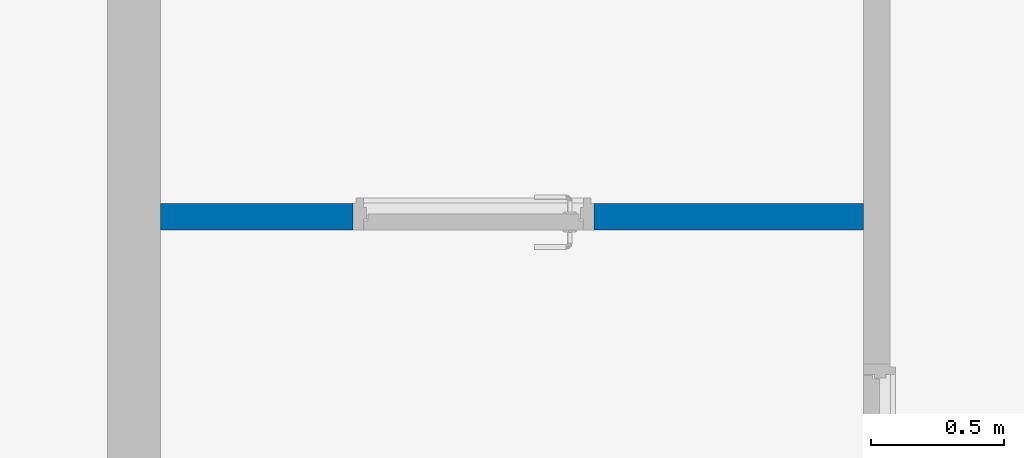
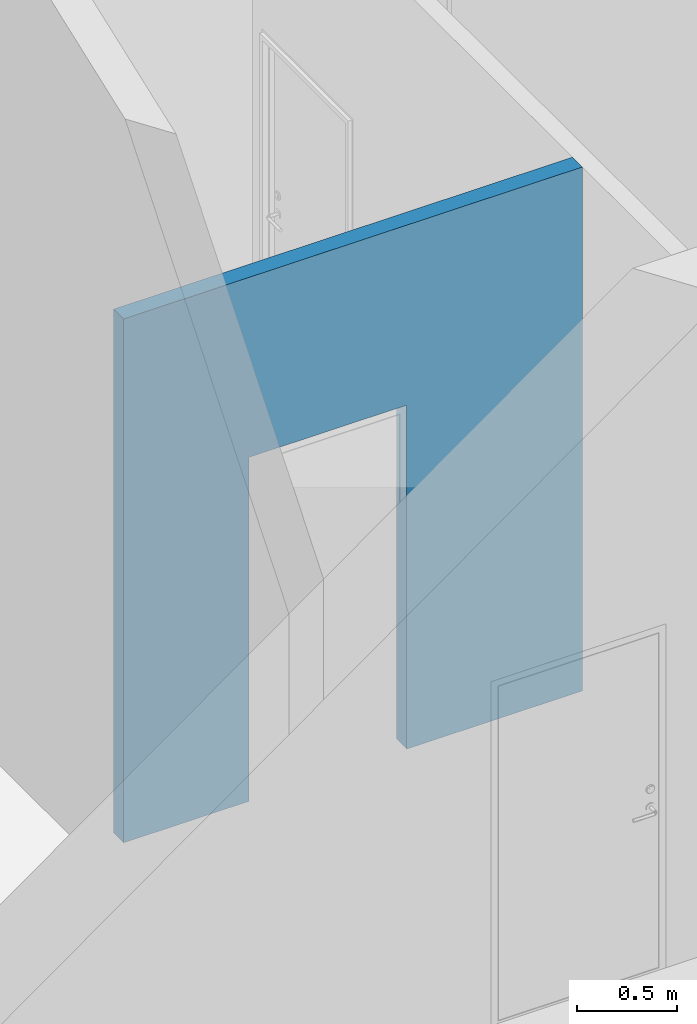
# One storey, part 7 of 23: 1 wall, 1 opening.
"""IFC2X3 building model written with IfcOpenShell, lengths in millimetres."""

from ifc_helpers import new_model, entity, si_unit, converted_unit, direction, frame, frame_2d, origin, place, context, subcontext, project, spatial, rectangle, extrude, material, layer, layer_set, layer_usage, type_object, element, save


model = new_model("IFC2X3")

# Units and contexts
model_context = context("Model", 3, precision=0.01, world=origin(), true_north=direction((6.123031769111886e-17, 1.0)))
body_context = subcontext(model_context, "Body", "Model", "MODEL_VIEW")
ifc_project = project(units=[si_unit("LENGTHUNIT", "METRE", prefix="MILLI"), converted_unit("PLANEANGLEUNIT", "DEGREE", entity("IfcPlaneAngleMeasure", 0.017453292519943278), si_unit("PLANEANGLEUNIT", "RADIAN"), dimensions=[0, 0, 0, 0, 0, 0, 0]), si_unit("AREAUNIT", "SQUARE_METRE")], contexts=[model_context])

# Site, building, storey
site_placement = place(None, frame((7776.576483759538, 118.3519876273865, 0.0)))
site = spatial("IfcSite", under=ifc_project, at=site_placement, Name="Default", CompositionType="ELEMENT")
building_placement = place(site_placement, origin())
building = spatial("IfcBuilding", under=site, at=building_placement, Name="Bygning (endres i Project Information)", CompositionType="ELEMENT")
storey_placement = place(building_placement, frame((0.0, 0.0, 19000.0)))
storey = spatial("IfcBuildingStorey", under=building, at=storey_placement, Name="Plan 01", CompositionType="ELEMENT", Elevation=19000.0)

# Wall, opening
ifc_material = material(Name="Default Wall")
ifc_layer = layer(ifc_material, 100.0)
ifc_layer_set = layer_set([ifc_layer], Name="Basic Wall:Generic - 100mm")
ifc_layer_usage = layer_usage(ifc_layer_set, "AXIS2", "NEGATIVE", 50.0)
wall_type = type_object("IfcWallType", Name="Basic Wall:Generic - 100mm", PredefinedType="STANDARD", material=ifc_layer_set)
wall_placement = place(storey_placement, frame((34874.001374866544, 21747.757305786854, 0.0), z_axis=(0.0, 0.0, 1.0), x_axis=(-1.0, 0.0, 0.0)))
wall = element("IfcWallStandardCase", 1, at=wall_placement, inside=storey, type_object=wall_type, material=ifc_layer_usage, Name="Basic Wall:Generic - 100mm", ObjectType="Basic Wall:Generic - 100mm", context=body_context, shape_type="SweptSolid", body=[
    extrude(rectangle(XDim=2649.9999999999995, YDim=100.00000000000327, at=frame_2d((1324.9999999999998, -2.3092638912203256e-13), x_axis=(-1.0, 0.0))), origin(), (0.0, 0.0, 1.0), 3200.0),
])
opening_placement = place(wall_placement, frame((1015.0, -50.0, 0.0)))
element("IfcOpeningElement", 2, at=opening_placement, cuts=wall, Name="Single Door Simple:886 x 2089 mm - M9 x M21:1", ObjectType="Opening", context=body_context, shape_type="SweptSolid", body=[
    extrude(rectangle(XDim=2100.9999999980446, YDim=910.0, at=frame_2d((1050.4999999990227, 455.0), x_axis=(1.0, 0.0))), frame((0.0, 0.0, 0.0), z_axis=(0.0, 1.0, 0.0), x_axis=(0.0, 0.0, 1.0)), (0.0, 0.0, 1.0), 100.0),
])

save(model, "model.ifc")
